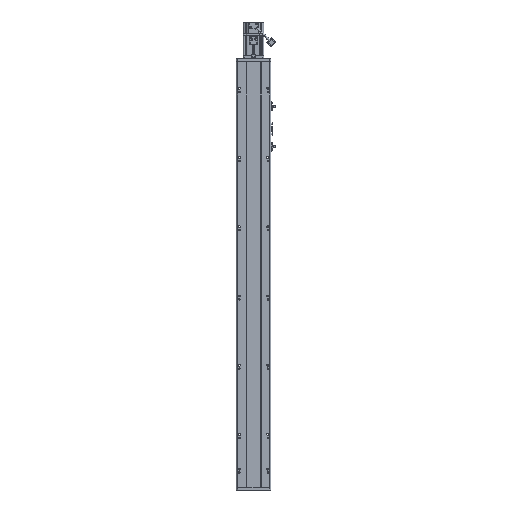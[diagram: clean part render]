
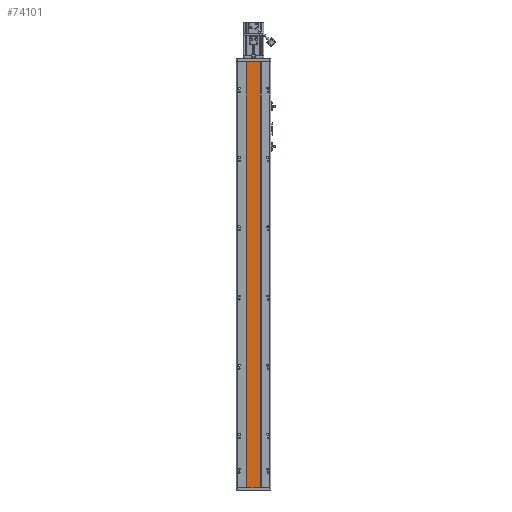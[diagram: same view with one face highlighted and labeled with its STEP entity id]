
A CAD part, front view. The second image highlights one B-rep face of the part: STEP entity #74101.
In plain terms, the highlighted planar face has unit normal (0, -1, 0).
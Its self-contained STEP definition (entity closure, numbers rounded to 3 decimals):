
#5817 = VECTOR ( 'NONE', #28976, 1000. ) ;
#6195 = CARTESIAN_POINT ( 'NONE',  ( 20., 0., -1228.5 ) ) ;
#8342 = VERTEX_POINT ( 'NONE', #24963 ) ;
#11561 = VECTOR ( 'NONE', #64708, 1000. ) ;
#13638 = LINE ( 'NONE', #47596, #11561 ) ;
#13653 = CARTESIAN_POINT ( 'NONE',  ( -20., 0., -1228.5 ) ) ;
#14514 = ORIENTED_EDGE ( 'NONE', *, *, #27730, .T. ) ;
#17362 = VERTEX_POINT ( 'NONE', #13653 ) ;
#17995 = EDGE_CURVE ( 'NONE', #46699, #17362, #13638, .T. ) ;
#20749 = CARTESIAN_POINT ( 'NONE',  ( 20., 0., 0. ) ) ;
#23430 = PLANE ( 'NONE',  #77418 ) ;
#24963 = CARTESIAN_POINT ( 'NONE',  ( -20., 0., 0. ) ) ;
#27730 = EDGE_CURVE ( 'NONE', #46699, #62028, #104045, .T. ) ;
#28549 = DIRECTION ( 'NONE',  ( 0., 0., 1. ) ) ;
#28976 = DIRECTION ( 'NONE',  ( -1., 0., 0. ) ) ;
#29902 = LINE ( 'NONE', #86233, #30536 ) ;
#30536 = VECTOR ( 'NONE', #28549, 1000. ) ;
#30862 = EDGE_CURVE ( 'NONE', #17362, #8342, #29902, .T. ) ;
#31699 = DIRECTION ( 'NONE',  ( 0., 1., 0. ) ) ;
#34570 = ORIENTED_EDGE ( 'NONE', *, *, #17995, .F. ) ;
#44915 = ORIENTED_EDGE ( 'NONE', *, *, #70767, .T. ) ;
#46699 = VERTEX_POINT ( 'NONE', #100613 ) ;
#47596 = CARTESIAN_POINT ( 'NONE',  ( 20., 0., -1228.5 ) ) ;
#49845 = DIRECTION ( 'NONE',  ( 0., 0., 1. ) ) ;
#62028 = VERTEX_POINT ( 'NONE', #68295 ) ;
#64708 = DIRECTION ( 'NONE',  ( -1., 0., 0. ) ) ;
#65648 = EDGE_LOOP ( 'NONE', ( #44915, #104146, #34570, #14514 ) ) ;
#66676 = CARTESIAN_POINT ( 'NONE',  ( 20., 0., -1228.5 ) ) ;
#68295 = CARTESIAN_POINT ( 'NONE',  ( 20., 0., 0. ) ) ;
#70767 = EDGE_CURVE ( 'NONE', #62028, #8342, #71509, .T. ) ;
#71509 = LINE ( 'NONE', #20749, #5817 ) ;
#74101 = ADVANCED_FACE ( 'NONE', ( #87709 ), #23430, .F. ) ;
#77418 = AXIS2_PLACEMENT_3D ( 'NONE', #6195, #31699, #89376 ) ;
#86233 = CARTESIAN_POINT ( 'NONE',  ( -20., 0., -1228.5 ) ) ;
#87709 = FACE_OUTER_BOUND ( 'NONE', #65648, .T. ) ;
#89376 = DIRECTION ( 'NONE',  ( -1., 0., 0. ) ) ;
#100613 = CARTESIAN_POINT ( 'NONE',  ( 20., 0., -1228.5 ) ) ;
#103134 = VECTOR ( 'NONE', #49845, 1000. ) ;
#104045 = LINE ( 'NONE', #66676, #103134 ) ;
#104146 = ORIENTED_EDGE ( 'NONE', *, *, #30862, .F. ) ;
